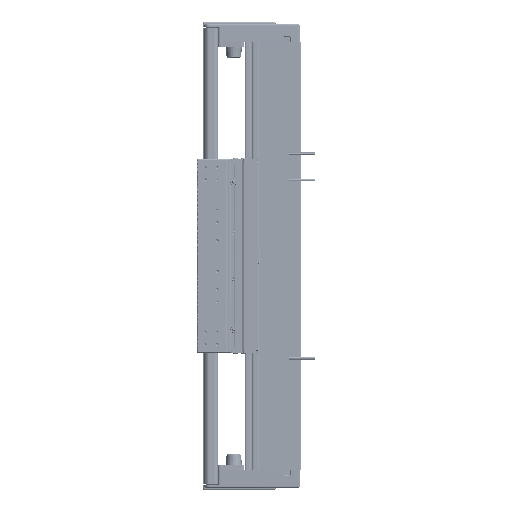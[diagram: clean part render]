
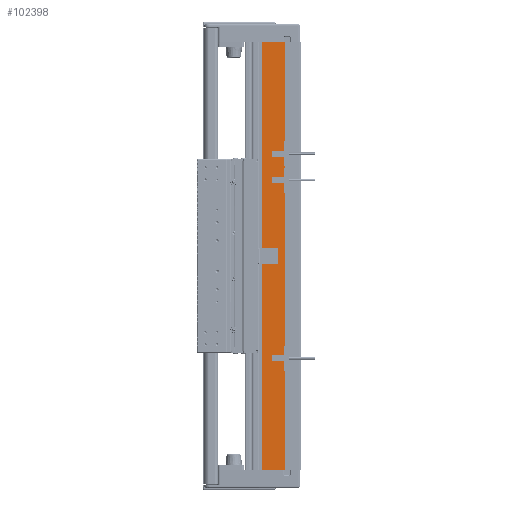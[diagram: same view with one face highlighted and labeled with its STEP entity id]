
A CAD part, left-side view. The second image highlights one B-rep face of the part: STEP entity #102398.
In plain terms, the highlighted planar face has unit normal (-1, 0, 0).
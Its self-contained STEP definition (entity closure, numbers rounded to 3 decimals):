
#4391 = CARTESIAN_POINT ( 'NONE',  ( -97.5, 36.95, 210. ) ) ;
#5040 = VECTOR ( 'NONE', #89848, 1000. ) ;
#10932 = ORIENTED_EDGE ( 'NONE', *, *, #53758, .T. ) ;
#13176 = VECTOR ( 'NONE', #34437, 1000. ) ;
#15864 = ORIENTED_EDGE ( 'NONE', *, *, #30935, .F. ) ;
#17108 = AXIS2_PLACEMENT_3D ( 'NONE', #92665, #93301, #103195 ) ;
#19527 = EDGE_CURVE ( 'NONE', #73203, #99345, #97759, .T. ) ;
#22867 = EDGE_LOOP ( 'NONE', ( #10932, #15864, #89967, #123897 ) ) ;
#24028 = CARTESIAN_POINT ( 'NONE',  ( -97.5, 36.95, -210. ) ) ;
#30935 = EDGE_CURVE ( 'NONE', #99345, #36893, #114821, .T. ) ;
#34437 = DIRECTION ( 'NONE',  ( 0., 0., -1. ) ) ;
#36893 = VERTEX_POINT ( 'NONE', #94527 ) ;
#41918 = FACE_OUTER_BOUND ( 'NONE', #22867, .T. ) ;
#45543 = CARTESIAN_POINT ( 'NONE',  ( -97.5, 36.95, -210. ) ) ;
#47654 = CARTESIAN_POINT ( 'NONE',  ( -97.5, 36.95, 210. ) ) ;
#53744 = PLANE ( 'NONE',  #17108 ) ;
#53758 = EDGE_CURVE ( 'NONE', #74962, #36893, #66623, .T. ) ;
#54127 = DIRECTION ( 'NONE',  ( 0., -1., 0. ) ) ;
#63018 = VECTOR ( 'NONE', #69416, 1000. ) ;
#66623 = LINE ( 'NONE', #45543, #95932 ) ;
#68112 = LINE ( 'NONE', #107656, #63018 ) ;
#69416 = DIRECTION ( 'NONE',  ( 0., 0., -1. ) ) ;
#71978 = CARTESIAN_POINT ( 'NONE',  ( -97.5, 14.45, 210. ) ) ;
#73203 = VERTEX_POINT ( 'NONE', #4391 ) ;
#74962 = VERTEX_POINT ( 'NONE', #24028 ) ;
#89848 = DIRECTION ( 'NONE',  ( 0., -1., 0. ) ) ;
#89967 = ORIENTED_EDGE ( 'NONE', *, *, #19527, .F. ) ;
#92665 = CARTESIAN_POINT ( 'NONE',  ( -97.5, 36.95, 210. ) ) ;
#93301 = DIRECTION ( 'NONE',  ( 1., 0., 0. ) ) ;
#94527 = CARTESIAN_POINT ( 'NONE',  ( -97.5, 14.45, -210. ) ) ;
#95932 = VECTOR ( 'NONE', #54127, 1000. ) ;
#97759 = LINE ( 'NONE', #47654, #5040 ) ;
#99345 = VERTEX_POINT ( 'NONE', #71978 ) ;
#102398 = ADVANCED_FACE ( 'NONE', ( #41918 ), #53744, .F. ) ;
#103195 = DIRECTION ( 'NONE',  ( 0., 1., 0. ) ) ;
#106908 = CARTESIAN_POINT ( 'NONE',  ( -97.5, 14.45, 210. ) ) ;
#107656 = CARTESIAN_POINT ( 'NONE',  ( -97.5, 36.95, 210. ) ) ;
#114821 = LINE ( 'NONE', #106908, #13176 ) ;
#123897 = ORIENTED_EDGE ( 'NONE', *, *, #128713, .T. ) ;
#128713 = EDGE_CURVE ( 'NONE', #73203, #74962, #68112, .T. ) ;
